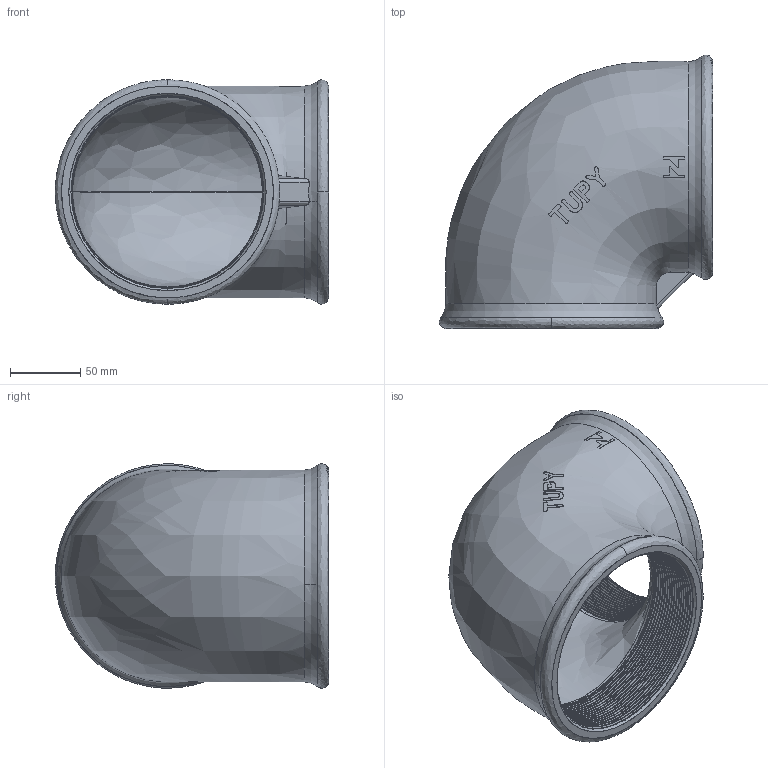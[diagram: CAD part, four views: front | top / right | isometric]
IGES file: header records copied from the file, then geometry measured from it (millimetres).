
Start section: SolidWorks IGES file using analytic representation for surfaces
Global section: file name: C:\Users\Joel Rosa\Desktop\Tubulação\12-07-OK\12-07-015.IGS; native system: SolidWorks 2011; preprocessor: SolidWorks 2011; author: Joel Rosa; date: 121204.004220; units: millimetre
Bounding box: 195 x 195 x 160 mm (x, y, z)
Surface area: 213372.4 mm2 (no closed solid volume)
Topology: 0 solids, 0 shells, 462 faces, 3379 edges, 3379 vertices
Faces by surface type: bspline 314, revolution 148
